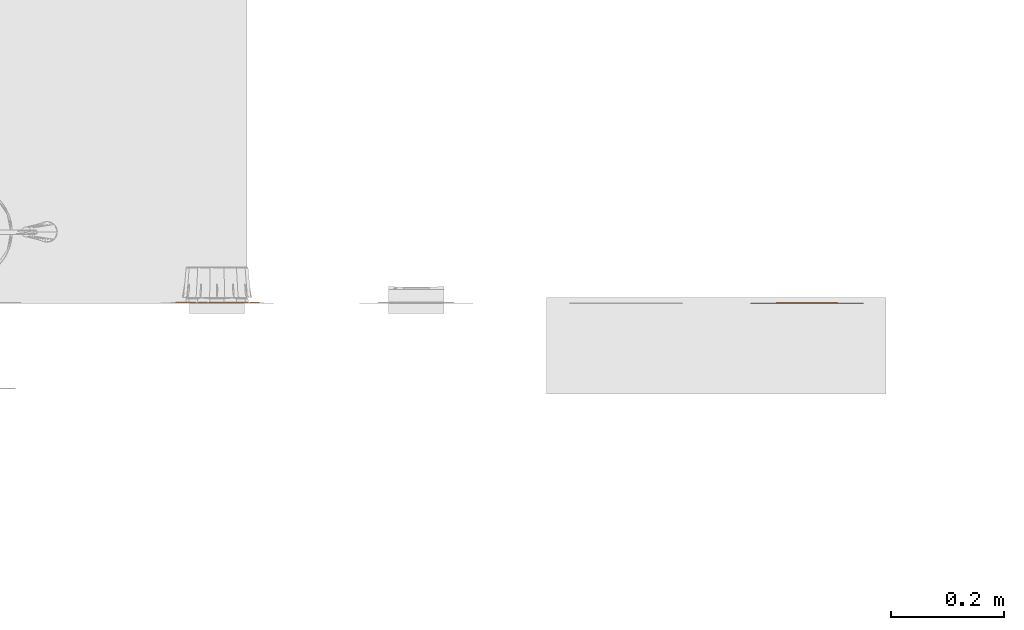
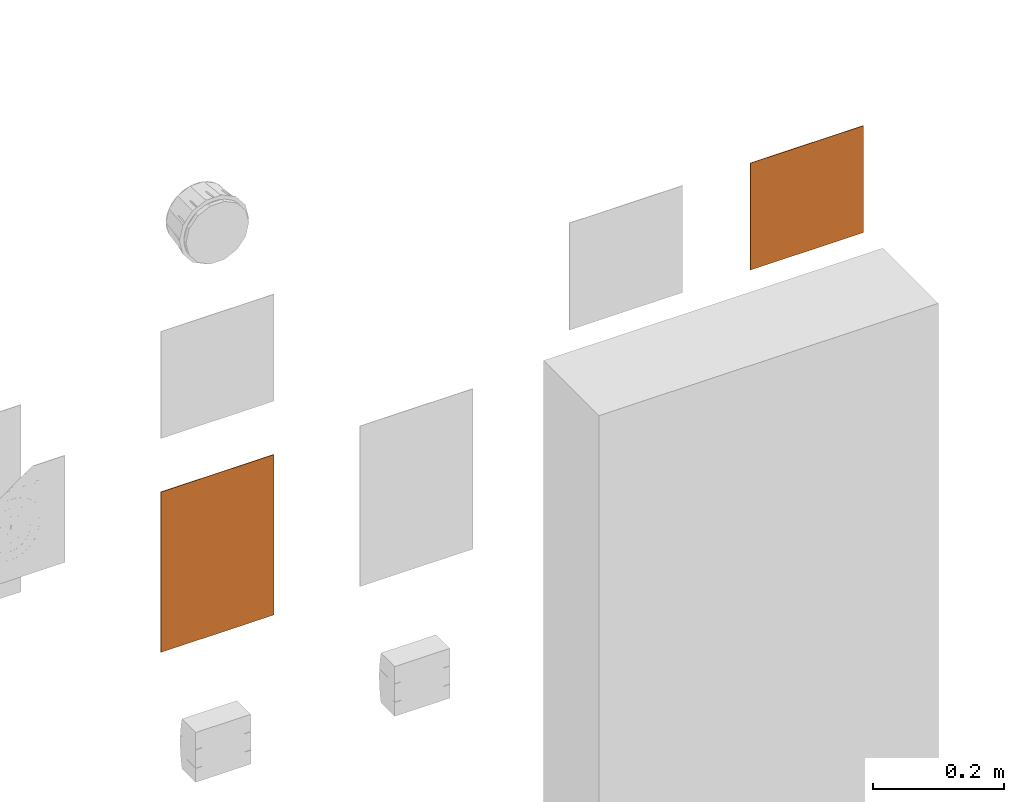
# One storey, part 44 of 119: 2 proxies.
"""IFC2X3 building model written with IfcOpenShell, lengths in metres."""

import ifcopenshell
import ifcopenshell.guid

model = None  # the IFC model being written
_history = None  # IfcOwnerHistory: only IFC2X3 demands one
_inside = {}  # id of a spatial element -> (the spatial element, [elements in it])
_under = {}  # id of a project, library or spatial element -> (it, [spatial elements below it])
_declared = {}  # id of a project -> (the project, [libraries it declares])
_typed = {}  # id of a type object -> (the type object, [elements of that type])
_made_of = {}  # id of a material, layer set ... -> (it, [elements and type objects made of it])


def new_model(schema):
    """Start an empty IFC model of exactly this schema.

    Asked for "IFC4X3", IfcOpenShell would pick the latest addendum, in which some entities
    have other attributes; the version numbers below select the first issue.
    IFC2X3 requires an IfcOwnerHistory on every rooted entity: one is made here for all.
    """
    global model, _history
    if schema == "IFC4X3":
        model = ifcopenshell.file(schema_version=(4, 3, 0, 0))
    else:
        model = ifcopenshell.file(schema=schema)
    _inside.clear()
    _under.clear()
    _declared.clear()
    _typed.clear()
    _made_of.clear()
    _history = None
    if model.schema == "IFC2X3":
        org = make("IfcOrganization", Name="unknown")
        user = make(
            "IfcPersonAndOrganization",
            ThePerson=make("IfcPerson", FamilyName="unknown"),
            TheOrganization=org,
        )
        app = make(
            "IfcApplication",
            ApplicationDeveloper=org,
            Version="unknown",
            ApplicationFullName="unknown",
            ApplicationIdentifier="unknown",
        )
        _history = make(
            "IfcOwnerHistory",
            OwningUser=user,
            OwningApplication=app,
            ChangeAction="ADDED",
            CreationDate=0,
        )
    return model


def make(cls, **values):
    """One entity of the class cls with the attributes given. An attribute that is None is left unset."""
    return model.create_entity(
        cls, **{name: value for name, value in values.items() if value is not None}
    )


def entity(cls, *values):
    """Any entity or typed value of the class cls, its attributes in the order of the schema. None: left unset."""
    e = model.create_entity(cls)
    for i, value in enumerate(values):
        if value is not None:
            e[i] = value
    return e


def rooted(cls, **values):
    """An entity with a GlobalId (a new one), such as an element, a storey or a relation."""
    return make(cls, GlobalId=ifcopenshell.guid.new(), OwnerHistory=_history, **values)


def si_unit(unit_type, name, prefix=None):
    """IfcSIUnit, for example si_unit("LENGTHUNIT", "METRE", prefix="MILLI")."""
    return make("IfcSIUnit", UnitType=unit_type, Prefix=prefix, Name=name)


def converted_unit(unit_type, name, factor, base, dimensions=None, offset=None):
    """IfcConversionBasedUnit, such as the inch: factor (a typed value) times the base unit."""
    return make(
        "IfcConversionBasedUnit"
        if offset is None
        else "IfcConversionBasedUnitWithOffset",
        ConversionOffset=offset,
        Dimensions=None
        if dimensions is None
        else entity("IfcDimensionalExponents", *dimensions),
        UnitType=unit_type,
        Name=name,
        ConversionFactor=make(
            "IfcMeasureWithUnit", ValueComponent=factor, UnitComponent=base
        ),
    )


def derived_unit(unit_type, elements):
    """IfcDerivedUnit: a product of units, each with its exponent."""
    return make(
        "IfcDerivedUnit",
        Elements=[
            make("IfcDerivedUnitElement", Unit=unit, Exponent=power)
            for unit, power in elements
        ],
        UnitType=unit_type,
    )


def assignment(units):
    """IfcUnitAssignment: the units of a project."""
    return None if units is None else make("IfcUnitAssignment", Units=units)


def point(xyz):
    """IfcCartesianPoint."""
    return None if xyz is None else make("IfcCartesianPoint", Coordinates=xyz)


def direction(xyz):
    """IfcDirection."""
    return None if xyz is None else make("IfcDirection", DirectionRatios=xyz)


def frame(location, z_axis=None, x_axis=None):
    """IfcAxis2Placement3D, a coordinate frame: its origin and axes. An axis left out is left unset."""
    return make(
        "IfcAxis2Placement3D",
        Location=point(location),
        Axis=direction(z_axis),
        RefDirection=direction(x_axis),
    )


def frame_2d(location, x_axis=None):
    """IfcAxis2Placement2D, a coordinate frame in the plane: its origin and x axis."""
    return make(
        "IfcAxis2Placement2D", Location=point(location), RefDirection=direction(x_axis)
    )


def origin():
    """The frame at (0, 0, 0) with its axes left unset."""
    return frame((0.0, 0.0, 0.0))


def origin_2d_with_axis():
    """The frame at (0, 0) in the plane with the x axis (1, 0) written out."""
    return frame_2d((0.0, 0.0), x_axis=(1.0, 0.0))


def place(relative_to, where):
    """IfcLocalPlacement: puts the frame where relative to a parent placement (None: the world)."""
    return make(
        "IfcLocalPlacement", PlacementRelTo=relative_to, RelativePlacement=where
    )


def context(
    kind, dimensions, precision=None, world=None, true_north=None, identifier=None
):
    """IfcGeometricRepresentationContext, for example the 3D "Model" context."""
    return make(
        "IfcGeometricRepresentationContext",
        ContextIdentifier=identifier,
        ContextType=kind,
        CoordinateSpaceDimension=dimensions,
        Precision=precision,
        WorldCoordinateSystem=world,
        TrueNorth=true_north,
    )


def subcontext(parent, identifier, kind, view, scale=None):
    """IfcGeometricRepresentationSubContext, for example "Body" below "Model"."""
    return make(
        "IfcGeometricRepresentationSubContext",
        ContextIdentifier=identifier,
        ContextType=kind,
        ParentContext=parent,
        TargetScale=scale,
        TargetView=view,
    )


def project(units=None, contexts=None):
    """IfcProject with its units and contexts."""
    return rooted(
        "IfcProject",
        Name="project",
        RepresentationContexts=contexts,
        UnitsInContext=assignment(units),
    )


def spatial(cls, under=None, at=None, **own):
    """A site, building, storey or space (cls), placed at a placement, below another one or the project."""
    s = rooted(cls, ObjectPlacement=at, **own)
    if under is not None:
        _under.setdefault(under.id(), (under, []))[1].append(s)
    return s


def polyline(points):
    """IfcPolyline through the points."""
    return make("IfcPolyline", Points=[point(p) for p in points])


def circle_curve(where, radius):
    """IfcCircle in the frame where."""
    return make("IfcCircle", Position=where, Radius=radius)


def parameter(value):
    """IfcParameterValue: where a trimmed curve begins or ends, as a parameter of its basis curve."""
    return model.create_entity("IfcParameterValue", value)


def trimmed(basis, trim1, trim2, sense, master):
    """IfcTrimmedCurve: the piece of a basis curve between two trims."""
    return make(
        "IfcTrimmedCurve",
        BasisCurve=basis,
        Trim1=trim1,
        Trim2=trim2,
        SenseAgreement=sense,
        MasterRepresentation=master,
    )


def segment(curve, same_sense, transition):
    """IfcCompositeCurveSegment."""
    return make(
        "IfcCompositeCurveSegment",
        Transition=transition,
        SameSense=same_sense,
        ParentCurve=curve,
    )


def composite_curve(segments, self_intersect=None):
    """IfcCompositeCurve: segments joined end to end."""
    return make("IfcCompositeCurve", Segments=segments, SelfIntersect=self_intersect)


def profile(cls, at=None, kind="AREA", **sizes):
    """A parametric profile (cls). Its sizes go by their IFC names, for example OverallWidth=200.0."""
    return make(cls, ProfileType=kind, Position=at, **sizes)


def rectangle(**sizes):
    """IfcRectangleProfileDef."""
    return profile("IfcRectangleProfileDef", **sizes)


def circle(**sizes):
    """IfcCircleProfileDef."""
    return profile("IfcCircleProfileDef", **sizes)


def outline(outer, holes=None, kind="AREA"):
    """IfcArbitraryClosedProfileDef: a profile drawn as a closed curve; with holes, ...WithVoids."""
    if holes is None:
        return make("IfcArbitraryClosedProfileDef", ProfileType=kind, OuterCurve=outer)
    return make(
        "IfcArbitraryProfileDefWithVoids",
        ProfileType=kind,
        OuterCurve=outer,
        InnerCurves=holes,
    )


def extrude(swept, where, along, depth):
    """IfcExtrudedAreaSolid: the profile swept, set in the frame where, extruded along a direction by depth."""
    return make(
        "IfcExtrudedAreaSolid",
        SweptArea=swept,
        Position=where,
        ExtrudedDirection=direction(along),
        Depth=depth,
    )


def shape(context_of_items, identifier, shape_type, items):
    """IfcShapeRepresentation: the items that make up one representation, for example the "Body"."""
    return make(
        "IfcShapeRepresentation",
        ContextOfItems=context_of_items,
        RepresentationIdentifier=identifier,
        RepresentationType=shape_type,
        Items=items,
    )


def source(mapping_origin, context_of_items, identifier, shape_type, items):
    """IfcRepresentationMap: a shape defined once, which mapped items show again and again."""
    return make(
        "IfcRepresentationMap",
        MappingOrigin=mapping_origin,
        MappedRepresentation=shape(context_of_items, identifier, shape_type, items),
    )


def transform(
    local_origin,
    x_axis=None,
    y_axis=None,
    z_axis=None,
    scale=None,
    scale2=None,
    scale3=None,
    uniform=True,
):
    """IfcCartesianTransformationOperator3D, or its non-uniform kind. x_axis, y_axis, z_axis: its Axis1, 2, 3."""
    if uniform:
        return make(
            "IfcCartesianTransformationOperator3D",
            Axis1=direction(x_axis),
            Axis2=direction(y_axis),
            LocalOrigin=point(local_origin),
            Scale=scale,
            Axis3=direction(z_axis),
        )
    return make(
        "IfcCartesianTransformationOperator3DnonUniform",
        Axis1=direction(x_axis),
        Axis2=direction(y_axis),
        LocalOrigin=point(local_origin),
        Scale=scale,
        Axis3=direction(z_axis),
        Scale2=scale2,
        Scale3=scale3,
    )


def mapped(mapping_source, mapping_target):
    """IfcMappedItem: shows the shape of a source again, moved by a transform."""
    return make(
        "IfcMappedItem", MappingSource=mapping_source, MappingTarget=mapping_target
    )


def material(Name=None, Category=None):
    """IfcMaterial."""
    return make("IfcMaterial", Name=Name, Category=Category)


def material_list(materials):
    """IfcMaterialList."""
    return make("IfcMaterialList", Materials=materials)


def made_of(thing, what):
    """Note that an element or type object is made of a material, layer set ...; save() writes the relation."""
    if what is not None:
        _made_of.setdefault(what.id(), (what, []))[1].append(thing)
    return thing


def type_object(cls, material=None, **own):
    """A type object (cls), such as IfcWallType, which elements share."""
    return made_of(rooted(cls, **own), material)


def type_shapes(of_type, sources):
    """Give a type object the sources (RepresentationMaps) that its elements show as mapped items."""
    of_type.RepresentationMaps = sources


def element(
    cls,
    number,
    at=None,
    inside=None,
    cuts=None,
    type_object=None,
    material=None,
    context=None,
    identifier="Body",
    shape_type=None,
    held_by="IfcProductDefinitionShape",
    body=None,
    shapes=None,
    **own,
):
    """One element of the class cls, such as IfcWall. Its Tag is "e" and its number.

    at: its placement. inside: the storey or other place that contains it. cuts: it is an
    opening in that element (IfcRelVoidsElement). A single representation is given by context,
    identifier, shape_type and body (its items); several are given by shapes. held_by: the class
    of the entity that holds the representations. save() writes the other relations.
    """
    e = rooted(cls, Tag="e%d" % number, ObjectPlacement=at, **own)
    if body is not None:
        shapes = [shape(context, identifier, shape_type, body)]
    if shapes is not None:
        e.Representation = make(held_by, Representations=shapes)
    if inside is not None:
        _inside.setdefault(inside.id(), (inside, []))[1].append(e)
    if cuts is not None:
        rooted(
            "IfcRelVoidsElement", RelatingBuildingElement=cuts, RelatedOpeningElement=e
        )
    if type_object is not None:
        _typed.setdefault(type_object.id(), (type_object, []))[1].append(e)
    return made_of(e, material)


def aggregate(whole, parts):
    """IfcRelAggregates: a whole, such as a stair, and the parts it consists of."""
    return rooted("IfcRelAggregates", RelatingObject=whole, RelatedObjects=parts)


def save(model, path):
    """Write the relations noted so far, then the file.

    IfcRelAggregates (storeys below a building ...), IfcRelContainedInSpatialStructure (elements
    in a storey), IfcRelDefinesByType, IfcRelAssociatesMaterial and IfcRelDeclares: one each for
    every whole, place, type object, material and project.
    """
    for whole, parts in _under.values():
        aggregate(whole, parts)
    for where, things in _inside.values():
        rooted(
            "IfcRelContainedInSpatialStructure",
            RelatedElements=things,
            RelatingStructure=where,
        )
    for kind, things in _typed.values():
        rooted("IfcRelDefinesByType", RelatedObjects=things, RelatingType=kind)
    for what, things in _made_of.values():
        rooted("IfcRelAssociatesMaterial", RelatedObjects=things, RelatingMaterial=what)
    for by, libraries in _declared.values():
        rooted("IfcRelDeclares", RelatingContext=by, RelatedDefinitions=libraries)
    model.write(path)


model = new_model("IFC2X3")

# Units and contexts
model_context = context("Model", 3, precision=1e-05, world=origin(), true_north=direction((6.12303176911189e-17, 1.0)))
body_context = subcontext(model_context, "Body", "Model", "MODEL_VIEW")
ifc_project = project(units=[si_unit("LENGTHUNIT", "METRE"), si_unit("AREAUNIT", "SQUARE_METRE"), si_unit("VOLUMEUNIT", "CUBIC_METRE"), converted_unit("PLANEANGLEUNIT", "DEGREE", entity("IfcRatioMeasure", 0.0174532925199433), si_unit("PLANEANGLEUNIT", "RADIAN"), dimensions=[0, 0, 0, 0, 0, 0, 0]), si_unit("MASSUNIT", "GRAM", prefix="KILO"), derived_unit("MASSDENSITYUNIT", [(si_unit("MASSUNIT", "GRAM", prefix="KILO"), 1), (si_unit("LENGTHUNIT", "METRE"), -3)]), derived_unit("MOMENTOFINERTIAUNIT", [(si_unit("LENGTHUNIT", "METRE"), 4)]), si_unit("TIMEUNIT", "SECOND"), si_unit("FREQUENCYUNIT", "HERTZ"), si_unit("THERMODYNAMICTEMPERATUREUNIT", "DEGREE_CELSIUS"), derived_unit("THERMALTRANSMITTANCEUNIT", [(si_unit("MASSUNIT", "GRAM", prefix="KILO"), 1), (si_unit("THERMODYNAMICTEMPERATUREUNIT", "KELVIN"), -1), (si_unit("TIMEUNIT", "SECOND"), -3)]), derived_unit("VOLUMETRICFLOWRATEUNIT", [(si_unit("LENGTHUNIT", "METRE"), 3), (si_unit("TIMEUNIT", "SECOND"), -1)]), si_unit("ELECTRICCURRENTUNIT", "AMPERE"), si_unit("ELECTRICVOLTAGEUNIT", "VOLT"), si_unit("POWERUNIT", "WATT"), si_unit("FORCEUNIT", "NEWTON", prefix="KILO"), si_unit("ILLUMINANCEUNIT", "LUX"), si_unit("LUMINOUSFLUXUNIT", "LUMEN"), si_unit("LUMINOUSINTENSITYUNIT", "CANDELA"), derived_unit("USERDEFINED", [(si_unit("MASSUNIT", "GRAM", prefix="KILO"), -1), (si_unit("LENGTHUNIT", "METRE"), -2), (si_unit("TIMEUNIT", "SECOND"), 3), (si_unit("LUMINOUSFLUXUNIT", "LUMEN"), 1)]), derived_unit("LINEARVELOCITYUNIT", [(si_unit("LENGTHUNIT", "METRE"), 1), (si_unit("TIMEUNIT", "SECOND"), -1)]), si_unit("PRESSUREUNIT", "PASCAL"), derived_unit("USERDEFINED", [(si_unit("LENGTHUNIT", "METRE"), -2), (si_unit("MASSUNIT", "GRAM", prefix="KILO"), 1), (si_unit("TIMEUNIT", "SECOND"), -2)]), derived_unit("LINEARFORCEUNIT", [(si_unit("MASSUNIT", "GRAM", prefix="KILO"), 1), (si_unit("LENGTHUNIT", "METRE"), 1), (si_unit("TIMEUNIT", "SECOND"), -2), (si_unit("LENGTHUNIT", "METRE"), -1)]), derived_unit("PLANARFORCEUNIT", [(si_unit("MASSUNIT", "GRAM", prefix="KILO"), 1), (si_unit("LENGTHUNIT", "METRE"), 1), (si_unit("TIMEUNIT", "SECOND"), -2), (si_unit("LENGTHUNIT", "METRE"), -2)])], contexts=[model_context])

# Site, building, storey
site_placement = place(None, origin())
site = spatial("IfcSite", under=ifc_project, at=site_placement, Name="Default", CompositionType="ELEMENT")
building_placement = place(site_placement, origin())
building = spatial("IfcBuilding", under=site, at=building_placement, CompositionType="ELEMENT")
storey_placement = place(building_placement, origin())
storey = spatial("IfcBuildingStorey", under=building, at=storey_placement, Name="PAV. 01 - TÉRREO", CompositionType="ELEMENT", Elevation=0.0)

# Proxies
ifc_material_1 = material(Name="Plastico branco")
ifc_material_2 = material(Name="Plastico vermelho")
ifc_material_list_1 = material_list([ifc_material_1, ifc_material_2])
building_element_proxy_type_1 = type_object("IfcBuildingElementProxyType", Name="Sinalização de equipamentos - E08 - Hidrante de incêndio:Distância 08m", PredefinedType="NOTDEFINED", material=ifc_material_1)
shared_shape_1 = source(origin(), body_context, "Body", "SweptSolid", [
    extrude(outline(polyline([(-0.0621646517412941, -0.0264425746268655), (-0.0621646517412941, -0.0546283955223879), (0.0655131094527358, -0.0546283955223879), (0.0655131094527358, -0.0264425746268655), (0.00753848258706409, -0.0264425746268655), (0.00753848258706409, 0.0264425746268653), (0.0655131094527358, 0.0264425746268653), (0.0655131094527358, 0.0546283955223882), (-0.0621646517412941, 0.0546283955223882), (-0.0621646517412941, 0.0264425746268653), (-0.0142353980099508, 0.0264425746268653), (-0.0142353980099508, -0.0264425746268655), (-0.0621646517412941, -0.0264425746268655)])), frame((0.0, -0.0015, 1.90139370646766), z_axis=(0.0, -1.0, 0.0), x_axis=(0.0, 0.0, -1.0)), (0.0, 0.0, -1.0), 0.0015),
    extrude(rectangle(XDim=0.001, YDim=0.179, at=origin_2d_with_axis()), frame((0.0, -0.0005, 1.8105), z_axis=(0.0, 0.0, 1.0), x_axis=(0.0, 1.0, 0.0)), (0.0, 0.0, 1.0), 0.179),
    extrude(outline(polyline([(-0.100000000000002, -0.1), (0.100000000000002, -0.1), (0.100000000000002, 0.1), (-0.100000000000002, 0.1), (-0.100000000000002, -0.1)]), holes=[polyline([(-0.0895000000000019, -0.0895000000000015), (-0.0895000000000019, 0.0894999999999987), (0.0894999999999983, 0.0894999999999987), (0.0894999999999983, -0.0895000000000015), (-0.0895000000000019, -0.0895000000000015)])]), frame((0.0, -0.001, 1.9), z_axis=(0.0, 1.0, 0.0), x_axis=(0.0, 0.0, -1.0)), (0.0, 0.0, 1.0), 0.001),
])
type_shapes(building_element_proxy_type_1, [shared_shape_1])
proxy_1_placement = place(storey_placement, frame((27.5340605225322, -5.41661806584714, 0.0), z_axis=(0.0, 0.0, 1.0), x_axis=(-1.0, 0.0, 0.0)))
element("IfcBuildingElementProxy", 1, at=proxy_1_placement, inside=storey, type_object=building_element_proxy_type_1, material=ifc_material_list_1, Name="Sinalização de equipamentos - E08 - Hidrante de incêndio:Distância 08m", ObjectType="Sinalização de equipamentos - E08 - Hidrante de incêndio:Distância 08m", context=body_context, shape_type="MappedRepresentation", body=[
    mapped(shared_shape_1, transform((0.0, 0.0, 0.0), scale=1.0)),
])
ifc_material_list_2 = material_list([ifc_material_1, ifc_material_2])
building_element_proxy_type_2 = type_object("IfcBuildingElementProxyType", Name="Sinalização de equipamentos - E02 - Comando manual de alarme:Distância 08m", PredefinedType="NOTDEFINED", material=ifc_material_1)
shared_shape_2 = source(origin(), body_context, "Body", "SweptSolid", [
    extrude(outline(polyline([(-0.00862797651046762, -0.00563161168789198), (-0.00493908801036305, -0.00563161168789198), (-0.00349461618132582, -0.00153589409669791), (0.00346718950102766, -0.00153589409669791), (0.00489337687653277, -0.00563161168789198), (0.00863254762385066, -0.00563161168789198), (0.00190386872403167, 0.0127991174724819), (-0.00183530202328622, 0.0127991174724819), (-0.00862797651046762, -0.00563161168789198)]), holes=[polyline([(-0.00237012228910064, 0.00168216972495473), (2.2855566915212e-06, 0.00841084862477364), (0.00234269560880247, 0.00168216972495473), (-0.00237012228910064, 0.00168216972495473)])]), frame((-0.0659680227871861, -0.0022123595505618, 1.53273031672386), z_axis=(0.0, 1.0, 0.0), x_axis=(-1.0, 0.0, 0.0)), (0.0, 0.0, 1.0), 0.0022123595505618),
    extrude(outline(polyline([(-0.00721626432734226, -0.0054609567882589), (0.0112144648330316, -0.0054609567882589), (0.0112144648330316, -0.00195034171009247), (-0.00399820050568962, -0.00195034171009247), (-0.00399820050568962, 0.00741129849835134), (-0.00721626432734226, 0.00741129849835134), (-0.00721626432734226, -0.0054609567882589)])), frame((-0.0501237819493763, -0.0022123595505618, 1.53431496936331), z_axis=(0.0, 1.0, 0.0), x_axis=(0.0, 0.0, 1.0)), (0.0, 0.0, 1.0), 0.0022123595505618),
    extrude(outline(polyline([(-0.00862797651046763, -0.00563161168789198), (-0.00493908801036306, -0.00563161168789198), (-0.00349461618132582, -0.00153589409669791), (0.00346718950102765, -0.00153589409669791), (0.00489337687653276, -0.00563161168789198), (0.00863254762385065, -0.00563161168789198), (0.00190386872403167, 0.0127991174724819), (-0.00183530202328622, 0.0127991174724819), (-0.00862797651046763, -0.00563161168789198)]), holes=[polyline([(-0.00237012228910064, 0.00168216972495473), (2.28555669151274e-06, 0.00841084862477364), (0.00234269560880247, 0.00168216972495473), (-0.00237012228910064, 0.00168216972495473)])]), frame((-0.0332022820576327, -0.0022123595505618, 1.53273031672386), z_axis=(0.0, 1.0, 0.0), x_axis=(-1.0, 0.0, 0.0)), (0.0, 0.0, 1.0), 0.0022123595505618),
    extrude(outline(polyline([(-0.00817015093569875, -0.00955162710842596), (0.0102605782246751, -0.00955162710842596), (0.0102605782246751, -0.00179901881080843), (0.00976232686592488, 0.00245211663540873), (0.00798873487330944, 0.00457311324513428), (0.00506779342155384, 0.00536848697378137), (0.00162574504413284, 0.00421885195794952), (-8.38513611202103e-05, 0.000779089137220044), (-0.00161974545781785, 0.00262124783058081), (-0.00459554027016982, 0.00457768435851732), (-0.00817015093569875, 0.00683124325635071), (-0.00817015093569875, 0.00273095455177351), (-0.00396015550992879, 6.14243360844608e-05), (-0.00146204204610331, -0.00203443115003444), (-0.000563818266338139, -0.00523649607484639), (-0.00817015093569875, -0.00604101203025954), (-0.00817015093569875, -0.00955162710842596)]), holes=[polyline([(0.0026542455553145, -0.00604101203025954), (0.0026542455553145, -0.00314749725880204), (0.00286680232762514, 0.0003654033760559), (0.00698308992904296, -0.000135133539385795), (0.00704251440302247, -0.00298750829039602), (0.00704251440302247, -0.00604101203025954), (0.0026542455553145, -0.00604101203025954)])]), frame((-0.0132673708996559, -0.0022123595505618, 1.53526885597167), z_axis=(0.0, 1.0, 0.0), x_axis=(0.0, 0.0, 1.0)), (0.0, 0.0, 1.0), 0.0022123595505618),
    extrude(outline(polyline([(-0.00835388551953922, -0.0089231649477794), (0.0100768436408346, -0.0089231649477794), (0.0100768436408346, -0.00290757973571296), (-0.00249371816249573, -3.51624106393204e-07), (0.0100768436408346, 0.00290687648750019), (0.0100768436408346, 0.00892246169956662), (-0.00835388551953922, 0.00892246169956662), (-0.00835388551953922, 0.0054118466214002), (0.00615482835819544, 0.00526557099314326), (-0.00835388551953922, 0.00205664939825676), (-0.00835388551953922, -0.00205278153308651), (0.00615482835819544, -0.00526627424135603), (-0.00835388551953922, -0.00541254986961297), (-0.00835388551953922, -0.0089231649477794)])), frame((0.00453489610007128, -0.0022123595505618, 1.53545259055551), z_axis=(0.0, 1.0, 0.0), x_axis=(0.0, 0.0, 1.0)), (0.0, 0.0, 1.0), 0.0022123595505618),
    extrude(outline(polyline([(-0.00931288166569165, -0.00799640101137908), (0.00911784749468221, -0.00799640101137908), (0.00911784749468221, 0.00575350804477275), (0.00589978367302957, 0.00575350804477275), (0.00589978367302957, -0.00448578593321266), (0.0018040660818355, -0.00448578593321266), (0.0018040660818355, 0.00516840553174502), (-0.00141399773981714, 0.00516840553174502), (-0.00141399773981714, -0.00448578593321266), (-0.00609481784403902, -0.00448578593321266), (-0.00609481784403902, 0.00604605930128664), (-0.00931288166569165, 0.00604605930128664), (-0.00931288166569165, -0.00799640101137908)])), frame((0.0249643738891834, -0.0022123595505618, 1.53641158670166), z_axis=(0.0, 1.0, 0.0), x_axis=(0.0, 0.0, 1.0)), (0.0, 0.0, 1.0), 0.0022123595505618),
    extrude(outline(polyline([(-0.00963237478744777, -0.00923822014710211), (-0.00280770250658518, -0.00923822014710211), (0.000712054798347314, -0.00888624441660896), (0.00350043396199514, -0.00718807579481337), (0.00526716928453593, -0.00420313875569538), (0.00587284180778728, 0.000155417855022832), (0.00530602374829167, 0.00407743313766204), (0.00332216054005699, 0.00733206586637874), (0.000698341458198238, 0.00880396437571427), (-0.00260657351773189, 0.00919250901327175), (-0.00963237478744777, 0.00919250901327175), (-0.00963237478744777, -0.00923822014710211)]), holes=[polyline([(-0.00612175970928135, -0.00602015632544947), (-0.00612175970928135, 0.00597444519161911), (-0.00313225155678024, 0.00597444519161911), (-0.000709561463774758, 0.00580074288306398), (0.000906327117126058, 0.00504879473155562), (0.00195539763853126, 0.00330034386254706), (0.00236222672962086, -1.82844535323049e-05), (0.00195539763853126, -0.00324091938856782), (0.000819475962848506, -0.00499622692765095), (-0.00103411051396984, -0.00584645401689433), (-0.00432074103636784, -0.00602015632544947), (-0.00612175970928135, -0.00602015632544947)])]), frame((0.0505895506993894, -0.0022123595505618, 1.53629121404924), z_axis=(0.0, 1.0, 0.0), x_axis=(1.0, 0.0, 0.0)), (0.0, 0.0, 1.0), 0.0022123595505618),
    extrude(outline(polyline([(-0.00931288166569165, -0.00799640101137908), (0.00911784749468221, -0.00799640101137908), (0.00911784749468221, 0.00575350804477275), (0.00589978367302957, 0.00575350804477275), (0.00589978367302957, -0.00448578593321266), (0.0018040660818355, -0.00448578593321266), (0.0018040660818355, 0.00516840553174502), (-0.00141399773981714, 0.00516840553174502), (-0.00141399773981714, -0.00448578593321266), (-0.00609481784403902, -0.00448578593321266), (-0.00609481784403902, 0.00604605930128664), (-0.00931288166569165, 0.00604605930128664), (-0.00931288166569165, -0.00799640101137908)])), frame((0.0673843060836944, -0.0022123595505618, 1.53641158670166), z_axis=(0.0, 1.0, 0.0), x_axis=(0.0, 0.0, 1.0)), (0.0, 0.0, 1.0), 0.0022123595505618),
    extrude(rectangle(XDim=0.0022123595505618, YDim=0.00351061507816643, at=frame_2d((0.0, -4.22838847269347e-18), x_axis=(1.0, 0.0))), frame((-0.0588028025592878, -0.0011061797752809, 1.49460223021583), z_axis=(0.0, 0.0, 1.0), x_axis=(0.0, 1.0, 0.0)), (0.0, 0.0, 1.0), 0.0184307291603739),
    extrude(outline(polyline([(-0.00919708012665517, -0.00744862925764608), (0.00923364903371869, -0.00744862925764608), (0.00923364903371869, -0.00376888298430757), (-0.00317235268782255, 0.00396086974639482), (0.00923364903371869, 0.00396086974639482), (0.00923364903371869, 0.00747148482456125), (-0.00919708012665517, 0.00747148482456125), (-0.00919708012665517, 0.00367746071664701), (0.00302607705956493, -0.00393801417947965), (-0.00919708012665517, -0.00393801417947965), (-0.00919708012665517, -0.00744862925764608)])), frame((-0.046088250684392, -0.0022123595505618, 1.50379931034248), z_axis=(0.0, 1.0, 0.0), x_axis=(0.0, 0.0, 1.0)), (0.0, 0.0, 1.0), 0.0022123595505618),
    extrude(outline(polyline([(0.00431987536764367, 0.00106265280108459), (0.0080203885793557, 0.00106265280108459), (0.00679097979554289, 0.00611977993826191), (0.0025895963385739, 0.00904043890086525), (-0.00392677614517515, 0.00861545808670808), (-0.00830378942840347, 0.00297217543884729), (-0.00825825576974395, -0.00444402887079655), (-0.00308837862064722, -0.00880297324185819), (0.00280208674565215, -0.00859337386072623), (0.0057075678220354, -0.00587580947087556), (0.00256213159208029, -0.004210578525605), (0.000503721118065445, -0.0057818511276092), (-0.00230057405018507, -0.00567343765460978), (-0.00522195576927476, -0.00319871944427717), (-0.00505861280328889, 0.00160616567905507), (-0.0022796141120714, 0.00575840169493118), (0.00144185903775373, 0.00603088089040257), (0.00369975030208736, 0.00431216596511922), (0.00431987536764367, 0.00106265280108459)])), frame((-0.0268737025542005, -0.0022123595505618, 1.50399764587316), z_axis=(0.0, 1.0, 0.0), x_axis=(0.948683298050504, 0.0, -0.316227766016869)), (0.0, 0.0, 1.0), 0.0022123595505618),
    extrude(outline(polyline([(-0.00931288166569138, -0.00799640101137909), (0.00911784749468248, -0.00799640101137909), (0.00911784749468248, 0.00575350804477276), (0.00589978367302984, 0.00575350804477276), (0.00589978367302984, -0.00448578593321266), (0.00180406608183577, -0.00448578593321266), (0.00180406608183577, 0.00516840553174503), (-0.00141399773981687, 0.00516840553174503), (-0.00141399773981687, -0.00448578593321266), (-0.00609481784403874, -0.00448578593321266), (-0.00609481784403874, 0.00604605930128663), (-0.00931288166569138, 0.00604605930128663), (-0.00931288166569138, -0.00799640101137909)])), frame((-0.00867902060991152, -0.0022123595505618, 1.50391511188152), z_axis=(0.0, 1.0, 0.0), x_axis=(0.0, 0.0, 1.0)), (0.0, 0.0, 1.0), 0.0022123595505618),
    extrude(outline(polyline([(-0.00919708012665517, -0.00744862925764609), (0.00923364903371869, -0.00744862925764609), (0.00923364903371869, -0.00376888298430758), (-0.00317235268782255, 0.00396086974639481), (0.00923364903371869, 0.00396086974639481), (0.00923364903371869, 0.00747148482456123), (-0.00919708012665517, 0.00747148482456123), (-0.00919708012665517, 0.003677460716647), (0.00302607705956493, -0.00393801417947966), (-0.00919708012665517, -0.00393801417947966), (-0.00919708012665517, -0.00744862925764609)])), frame((0.00774118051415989, -0.0022123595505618, 1.50379931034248), z_axis=(0.0, 1.0, 0.0), x_axis=(0.0, 0.0, 1.0)), (0.0, 0.0, 1.0), 0.0022123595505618),
    extrude(outline(polyline([(-0.00963237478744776, -0.00923822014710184), (-0.00280770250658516, -0.00923822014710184), (0.000712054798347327, -0.00888624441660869), (0.00350043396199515, -0.00718807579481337), (0.00526716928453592, -0.00420313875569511), (0.0058728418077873, 0.000155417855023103), (0.00530602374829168, 0.00407743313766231), (0.003322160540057, 0.00733206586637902), (0.000698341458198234, 0.00880396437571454), (-0.00260657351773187, 0.00919250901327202), (-0.00963237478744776, 0.00919250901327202), (-0.00963237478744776, -0.00923822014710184)]), holes=[polyline([(-0.00612175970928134, -0.0060201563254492), (-0.00612175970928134, 0.00597444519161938), (-0.00313225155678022, 0.00597444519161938), (-0.000709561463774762, 0.00580074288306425), (0.00090632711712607, 0.00504879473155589), (0.00195539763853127, 0.00330034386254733), (0.00236222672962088, -1.82844535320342e-05), (0.00195539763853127, -0.00324091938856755), (0.000819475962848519, -0.00499622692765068), (-0.00103411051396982, -0.00584645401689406), (-0.00432074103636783, -0.0060201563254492), (-0.00612175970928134, -0.0060201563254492)])]), frame((0.0283556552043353, -0.0022123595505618, 1.5037947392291), z_axis=(0.0, 1.0, 0.0), x_axis=(1.0, 0.0, 0.0)), (0.0, 0.0, 1.0), 0.0022123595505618),
    extrude(rectangle(XDim=0.0022123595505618, YDim=0.00351061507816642, at=origin_2d_with_axis()), frame((0.0389093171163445, -0.0011061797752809, 1.49460223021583), z_axis=(0.0, 0.0, 1.0), x_axis=(0.0, 1.0, 0.0)), (0.0, 0.0, 1.0), 0.0184307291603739),
    extrude(outline(polyline([(-0.0027413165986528, -0.0072353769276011), (0.0020480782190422, -0.0072353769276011), (0.00482213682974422, -0.00601174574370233), (0.00685816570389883, -0.00399502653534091), (0.00824841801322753, -0.000275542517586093), (0.00687087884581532, 0.00646330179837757), (0.000381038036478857, 0.0100380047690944), (-0.00689652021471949, 0.0088964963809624), (-0.0104736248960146, 0.00305448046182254), (-0.00911725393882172, -0.00369921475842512), (-0.0027413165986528, -0.0072353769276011)]), holes=[polyline([(-0.00200878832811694, -0.00379965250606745), (-0.00638392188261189, -0.00151705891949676), (-0.00730473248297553, 0.00249405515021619), (-0.00508828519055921, 0.00593636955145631), (-0.000139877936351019, 0.00656516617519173), (0.00422261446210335, 0.00434280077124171), (0.00508584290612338, 0.000320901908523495), (0.00288428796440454, -0.00318203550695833), (-0.00200878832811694, -0.00379965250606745)])]), frame((0.0511902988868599, -0.0022123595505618, 1.50515350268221), z_axis=(0.0, 1.0, 0.0), x_axis=(0.172750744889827, 0.0, 0.984965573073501)), (0.0, 0.0, 1.0), 0.0022123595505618),
    extrude(outline(polyline([(-0.00331762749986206, -0.00249092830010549), (0.000995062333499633, -0.00249092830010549), (0.00269430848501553, -0.00010950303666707), (0.00127033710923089, 0.00393891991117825), (-0.000258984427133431, 0.00179563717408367), (0.0004052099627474, -0.000295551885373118), (-0.00178830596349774, -0.00034764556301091), (-0.00331762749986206, -0.00249092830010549)])), frame((-0.00979524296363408, -0.0022123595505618, 1.51574950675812), z_axis=(0.0, 1.0, 0.0), x_axis=(0.580837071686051, 0.0, 0.814019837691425)), (0.0, 0.0, 1.0), 0.0022123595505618),
    extrude(circle(Radius=0.0367452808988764, at=frame_2d((-5.36303450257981e-23, -2.70716782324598e-16), x_axis=(1.0, 0.0))), frame((0.0, -0.0011, 1.64973853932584), z_axis=(0.0, 1.0, 0.0), x_axis=(1.0, 0.0, 0.0)), (0.0, 0.0, 1.0), 0.0011),
    extrude(outline(polyline([(-0.0713787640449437, -0.075200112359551), (0.0713787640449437, -0.075200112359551), (0.0752001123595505, -0.0713787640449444), (0.0752001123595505, 0.0713787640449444), (0.0713787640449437, 0.075200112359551), (-0.0713787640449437, 0.075200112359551), (-0.0752001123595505, 0.0713787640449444), (-0.0752001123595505, -0.0713787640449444), (-0.0713787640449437, -0.075200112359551)]), holes=[composite_curve([segment(trimmed(circle_curve(origin_2d_with_axis(), 0.0583057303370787), [parameter(180.0)], [parameter(360.0)], True, "PARAMETER"), False, "CONTINUOUS"), segment(trimmed(circle_curve(origin_2d_with_axis(), 0.0583057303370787), [parameter(0.0)], [parameter(180.0)], True, "PARAMETER"), False, "CONTINUOUS")], self_intersect=False)]), frame((0.0, -0.0011, 1.64973853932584), z_axis=(0.0, 1.0, 0.0), x_axis=(1.0, 0.0, 0.0)), (0.0, 0.0, 1.0), 0.0011),
    extrude(rectangle(XDim=0.001, YDim=0.179, at=origin_2d_with_axis()), frame((0.0, -0.0005, 1.4605), z_axis=(0.0, 0.0, 1.0), x_axis=(0.0, 1.0, 0.0)), (0.0, 0.0, 1.0), 0.279),
    extrude(outline(polyline([(-0.150000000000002, -0.1), (0.150000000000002, -0.1), (0.150000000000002, 0.1), (-0.150000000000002, 0.1), (-0.150000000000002, -0.1)]), holes=[polyline([(-0.139500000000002, -0.0895000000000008), (-0.139500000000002, 0.0894999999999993), (0.139499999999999, 0.0894999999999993), (0.139499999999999, -0.0895000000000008), (-0.139500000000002, -0.0895000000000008)])]), frame((0.0, -0.001, 1.6), z_axis=(0.0, 1.0, 0.0), x_axis=(0.0, 0.0, -1.0)), (0.0, 0.0, 1.0), 0.001),
])
type_shapes(building_element_proxy_type_2, [shared_shape_2])
proxy_2_placement = place(storey_placement, frame((26.4912251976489, -5.41661806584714, 0.0), z_axis=(0.0, 0.0, 1.0), x_axis=(-1.0, 0.0, 0.0)))
element("IfcBuildingElementProxy", 2, at=proxy_2_placement, inside=storey, type_object=building_element_proxy_type_2, material=ifc_material_list_2, Name="Sinalização de equipamentos - E02 - Comando manual de alarme:Distância 08m", ObjectType="Sinalização de equipamentos - E02 - Comando manual de alarme:Distância 08m", context=body_context, shape_type="MappedRepresentation", body=[
    mapped(shared_shape_2, transform((0.0, 0.0, 0.0), scale=1.0)),
])

save(model, "model.ifc")
